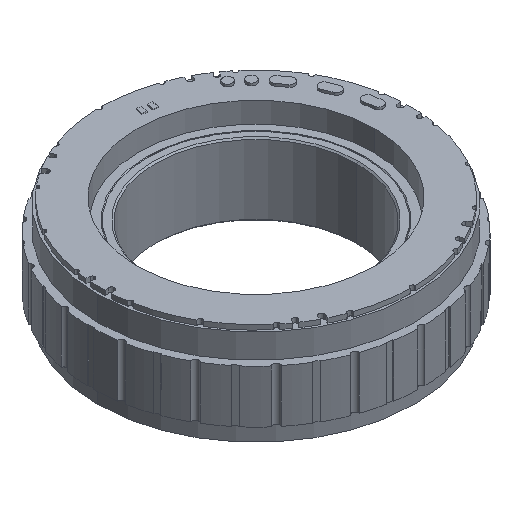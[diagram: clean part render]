
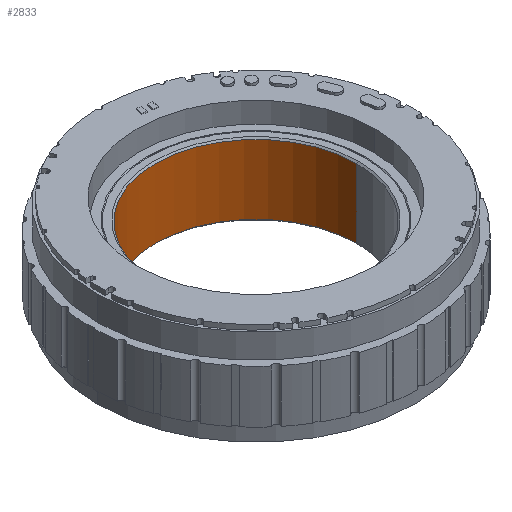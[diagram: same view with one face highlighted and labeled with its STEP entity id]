
A CAD part, isometric view. The second image highlights one B-rep face of the part: STEP entity #2833.
In plain terms, the highlighted cylindrical face has radius 21 mm (diameter 42 mm), a partial arc.
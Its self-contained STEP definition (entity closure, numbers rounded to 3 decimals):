
#124 = AXIS2_PLACEMENT_3D ( 'NONE', #6118, #7293, #488 ) ;
#415 = AXIS2_PLACEMENT_3D ( 'NONE', #531, #3288, #8783 ) ;
#441 = DIRECTION ( 'NONE',  ( 0., 0., -1. ) ) ;
#488 = DIRECTION ( 'NONE',  ( 1., 0., 0. ) ) ;
#531 = CARTESIAN_POINT ( 'NONE',  ( 0., 0., 11.7 ) ) ;
#624 = VERTEX_POINT ( 'NONE', #6768 ) ;
#1277 = ORIENTED_EDGE ( 'NONE', *, *, #3190, .T. ) ;
#1420 = CIRCLE ( 'NONE', #415, 21. ) ;
#1629 = LINE ( 'NONE', #3704, #8527 ) ;
#1680 = CYLINDRICAL_SURFACE ( 'NONE', #3000, 21. ) ;
#2001 = CIRCLE ( 'NONE', #124, 21. ) ;
#2015 = CARTESIAN_POINT ( 'NONE',  ( -21., 0., 11.7 ) ) ;
#2833 = ADVANCED_FACE ( 'NONE', ( #7173 ), #1680, .F. ) ;
#2944 = DIRECTION ( 'NONE',  ( 0., 0., -1. ) ) ;
#3000 = AXIS2_PLACEMENT_3D ( 'NONE', #8486, #5146, #3626 ) ;
#3190 = EDGE_CURVE ( 'NONE', #8187, #6565, #2001, .T. ) ;
#3279 = EDGE_CURVE ( 'NONE', #624, #8125, #1420, .T. ) ;
#3288 = DIRECTION ( 'NONE',  ( 0., 0., 1. ) ) ;
#3626 = DIRECTION ( 'NONE',  ( -1., 0., 0. ) ) ;
#3704 = CARTESIAN_POINT ( 'NONE',  ( -21., 0., 12. ) ) ;
#5009 = EDGE_LOOP ( 'NONE', ( #8165, #7129, #5858, #1277 ) ) ;
#5146 = DIRECTION ( 'NONE',  ( 0., 0., -1. ) ) ;
#5335 = CARTESIAN_POINT ( 'NONE',  ( 21., 0., -2.7 ) ) ;
#5858 = ORIENTED_EDGE ( 'NONE', *, *, #6845, .T. ) ;
#6118 = CARTESIAN_POINT ( 'NONE',  ( 0., 0., -2.7 ) ) ;
#6337 = CARTESIAN_POINT ( 'NONE',  ( -21., 0., -2.7 ) ) ;
#6565 = VERTEX_POINT ( 'NONE', #5335 ) ;
#6617 = LINE ( 'NONE', #7286, #7976 ) ;
#6768 = CARTESIAN_POINT ( 'NONE',  ( 21., 0., 11.7 ) ) ;
#6845 = EDGE_CURVE ( 'NONE', #8125, #8187, #1629, .T. ) ;
#7129 = ORIENTED_EDGE ( 'NONE', *, *, #3279, .T. ) ;
#7173 = FACE_OUTER_BOUND ( 'NONE', #5009, .T. ) ;
#7286 = CARTESIAN_POINT ( 'NONE',  ( 21., 0., 12. ) ) ;
#7293 = DIRECTION ( 'NONE',  ( 0., 0., -1. ) ) ;
#7901 = EDGE_CURVE ( 'NONE', #624, #6565, #6617, .T. ) ;
#7976 = VECTOR ( 'NONE', #441, 1000. ) ;
#8125 = VERTEX_POINT ( 'NONE', #2015 ) ;
#8165 = ORIENTED_EDGE ( 'NONE', *, *, #7901, .F. ) ;
#8187 = VERTEX_POINT ( 'NONE', #6337 ) ;
#8486 = CARTESIAN_POINT ( 'NONE',  ( 0., 0., 12. ) ) ;
#8527 = VECTOR ( 'NONE', #2944, 1000. ) ;
#8783 = DIRECTION ( 'NONE',  ( 1., 0., 0. ) ) ;
